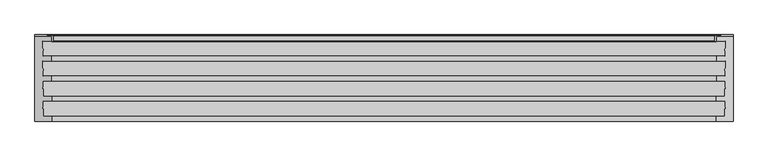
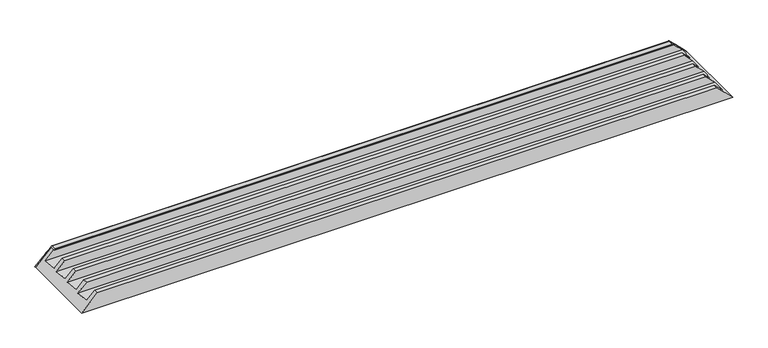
"""IFC4 building model written with IfcOpenShell, lengths in millimetres: proxy geometry, Weiku - Montante - Caixilho quíntuplo 02.2.01.003-003 refilado : Weiku - Montante - Caixilho quíntuplo 02.2.01.003-003 refilado."""

import ifcopenshell
import ifcopenshell.guid

model = None  # the IFC model being written
_history = None  # IfcOwnerHistory: only IFC2X3 demands one
_inside = {}  # id of a spatial element -> (the spatial element, [elements in it])
_under = {}  # id of a project, library or spatial element -> (it, [spatial elements below it])
_declared = {}  # id of a project -> (the project, [libraries it declares])
_typed = {}  # id of a type object -> (the type object, [elements of that type])
_made_of = {}  # id of a material, layer set ... -> (it, [elements and type objects made of it])


def new_model(schema):
    """Start an empty IFC model of exactly this schema.

    Asked for "IFC4X3", IfcOpenShell would pick the latest addendum, in which some entities
    have other attributes; the version numbers below select the first issue.
    IFC2X3 requires an IfcOwnerHistory on every rooted entity: one is made here for all.
    """
    global model, _history
    if schema == "IFC4X3":
        model = ifcopenshell.file(schema_version=(4, 3, 0, 0))
    else:
        model = ifcopenshell.file(schema=schema)
    _inside.clear()
    _under.clear()
    _declared.clear()
    _typed.clear()
    _made_of.clear()
    _history = None
    if model.schema == "IFC2X3":
        org = make("IfcOrganization", Name="unknown")
        user = make(
            "IfcPersonAndOrganization",
            ThePerson=make("IfcPerson", FamilyName="unknown"),
            TheOrganization=org,
        )
        app = make(
            "IfcApplication",
            ApplicationDeveloper=org,
            Version="unknown",
            ApplicationFullName="unknown",
            ApplicationIdentifier="unknown",
        )
        _history = make(
            "IfcOwnerHistory",
            OwningUser=user,
            OwningApplication=app,
            ChangeAction="ADDED",
            CreationDate=0,
        )
    return model


def make(cls, **values):
    """One entity of the class cls with the attributes given. An attribute that is None is left unset."""
    return model.create_entity(
        cls, **{name: value for name, value in values.items() if value is not None}
    )


def rooted(cls, **values):
    """An entity with a GlobalId (a new one), such as an element, a storey or a relation."""
    return make(cls, GlobalId=ifcopenshell.guid.new(), OwnerHistory=_history, **values)


def si_unit(unit_type, name, prefix=None):
    """IfcSIUnit, for example si_unit("LENGTHUNIT", "METRE", prefix="MILLI")."""
    return make("IfcSIUnit", UnitType=unit_type, Prefix=prefix, Name=name)


def assignment(units):
    """IfcUnitAssignment: the units of a project."""
    return None if units is None else make("IfcUnitAssignment", Units=units)


def point(xyz):
    """IfcCartesianPoint."""
    return None if xyz is None else make("IfcCartesianPoint", Coordinates=xyz)


def direction(xyz):
    """IfcDirection."""
    return None if xyz is None else make("IfcDirection", DirectionRatios=xyz)


def frame(location, z_axis=None, x_axis=None):
    """IfcAxis2Placement3D, a coordinate frame: its origin and axes. An axis left out is left unset."""
    return make(
        "IfcAxis2Placement3D",
        Location=point(location),
        Axis=direction(z_axis),
        RefDirection=direction(x_axis),
    )


def origin():
    """The frame at (0, 0, 0) with its axes left unset."""
    return frame((0.0, 0.0, 0.0))


def place(relative_to, where):
    """IfcLocalPlacement: puts the frame where relative to a parent placement (None: the world)."""
    return make(
        "IfcLocalPlacement", PlacementRelTo=relative_to, RelativePlacement=where
    )


def context(
    kind, dimensions, precision=None, world=None, true_north=None, identifier=None
):
    """IfcGeometricRepresentationContext, for example the 3D "Model" context."""
    return make(
        "IfcGeometricRepresentationContext",
        ContextIdentifier=identifier,
        ContextType=kind,
        CoordinateSpaceDimension=dimensions,
        Precision=precision,
        WorldCoordinateSystem=world,
        TrueNorth=true_north,
    )


def project(units=None, contexts=None):
    """IfcProject with its units and contexts."""
    return rooted(
        "IfcProject",
        Name="project",
        RepresentationContexts=contexts,
        UnitsInContext=assignment(units),
    )


def spatial(cls, under=None, at=None, **own):
    """A site, building, storey or space (cls), placed at a placement, below another one or the project."""
    s = rooted(cls, ObjectPlacement=at, **own)
    if under is not None:
        _under.setdefault(under.id(), (under, []))[1].append(s)
    return s


def polyline(points):
    """IfcPolyline through the points."""
    return make("IfcPolyline", Points=[point(p) for p in points])


def ellipse_curve(where, semi_axis1, semi_axis2):
    """IfcEllipse in the frame where."""
    return make(
        "IfcEllipse", Position=where, SemiAxis1=semi_axis1, SemiAxis2=semi_axis2
    )


def faces_of(points, faces, orient=None, outer=None):
    """IfcFace entities. A face is a list of loops; a loop is a list of indices into points, from 0.

    orient and outer hold one flag for each loop. By default every Orientation is true, the
    first loop of a face is its IfcFaceOuterBound and the others are IfcFaceBound.
    """
    made = []
    for i, loops in enumerate(faces):
        bounds = []
        for j, loop in enumerate(loops):
            is_outer = j == 0 if outer is None else outer[i][j]
            bounds.append(
                make(
                    "IfcFaceOuterBound" if is_outer else "IfcFaceBound",
                    Bound=make("IfcPolyLoop", Polygon=[points[k] for k in loop]),
                    Orientation=True if orient is None else orient[i][j],
                )
            )
        made.append(make("IfcFace", Bounds=bounds))
    return made


def faceted_brep(points, faces, orient=None, outer=None, voids=None):
    """IfcFacetedBrep: a solid bounded by flat faces; with voids (closed shells), ...WithVoids."""
    shared = [point(p) for p in points]
    hull = make("IfcClosedShell", CfsFaces=faces_of(shared, faces, orient, outer))
    if voids is None:
        return make("IfcFacetedBrep", Outer=hull)
    return make(
        "IfcFacetedBrepWithVoids",
        Outer=hull,
        Voids=[
            make(cls, CfsFaces=faces_of(shared, fs, o, b)) for cls, fs, o, b in voids
        ],
    )


def shape(context_of_items, identifier, shape_type, items):
    """IfcShapeRepresentation: the items that make up one representation, for example the "Body"."""
    return make(
        "IfcShapeRepresentation",
        ContextOfItems=context_of_items,
        RepresentationIdentifier=identifier,
        RepresentationType=shape_type,
        Items=items,
    )


def source(mapping_origin, context_of_items, identifier, shape_type, items):
    """IfcRepresentationMap: a shape defined once, which mapped items show again and again."""
    return make(
        "IfcRepresentationMap",
        MappingOrigin=mapping_origin,
        MappedRepresentation=shape(context_of_items, identifier, shape_type, items),
    )


def transform(
    local_origin,
    x_axis=None,
    y_axis=None,
    z_axis=None,
    scale=None,
    scale2=None,
    scale3=None,
    uniform=True,
):
    """IfcCartesianTransformationOperator3D, or its non-uniform kind. x_axis, y_axis, z_axis: its Axis1, 2, 3."""
    if uniform:
        return make(
            "IfcCartesianTransformationOperator3D",
            Axis1=direction(x_axis),
            Axis2=direction(y_axis),
            LocalOrigin=point(local_origin),
            Scale=scale,
            Axis3=direction(z_axis),
        )
    return make(
        "IfcCartesianTransformationOperator3DnonUniform",
        Axis1=direction(x_axis),
        Axis2=direction(y_axis),
        LocalOrigin=point(local_origin),
        Scale=scale,
        Axis3=direction(z_axis),
        Scale2=scale2,
        Scale3=scale3,
    )


def mapped(mapping_source, mapping_target):
    """IfcMappedItem: shows the shape of a source again, moved by a transform."""
    return make(
        "IfcMappedItem", MappingSource=mapping_source, MappingTarget=mapping_target
    )


def made_of(thing, what):
    """Note that an element or type object is made of a material, layer set ...; save() writes the relation."""
    if what is not None:
        _made_of.setdefault(what.id(), (what, []))[1].append(thing)
    return thing


def element(
    cls,
    number,
    at=None,
    inside=None,
    cuts=None,
    type_object=None,
    material=None,
    context=None,
    identifier="Body",
    shape_type=None,
    held_by="IfcProductDefinitionShape",
    body=None,
    shapes=None,
    **own,
):
    """One element of the class cls, such as IfcWall. Its Tag is "e" and its number.

    at: its placement. inside: the storey or other place that contains it. cuts: it is an
    opening in that element (IfcRelVoidsElement). A single representation is given by context,
    identifier, shape_type and body (its items); several are given by shapes. held_by: the class
    of the entity that holds the representations. save() writes the other relations.
    """
    e = rooted(cls, Tag="e%d" % number, ObjectPlacement=at, **own)
    if body is not None:
        shapes = [shape(context, identifier, shape_type, body)]
    if shapes is not None:
        e.Representation = make(held_by, Representations=shapes)
    if inside is not None:
        _inside.setdefault(inside.id(), (inside, []))[1].append(e)
    if cuts is not None:
        rooted(
            "IfcRelVoidsElement", RelatingBuildingElement=cuts, RelatedOpeningElement=e
        )
    if type_object is not None:
        _typed.setdefault(type_object.id(), (type_object, []))[1].append(e)
    return made_of(e, material)


def aggregate(whole, parts):
    """IfcRelAggregates: a whole, such as a stair, and the parts it consists of."""
    return rooted("IfcRelAggregates", RelatingObject=whole, RelatedObjects=parts)


def save(model, path):
    """Write the relations noted so far, then the file.

    IfcRelAggregates (storeys below a building ...), IfcRelContainedInSpatialStructure (elements
    in a storey), IfcRelDefinesByType, IfcRelAssociatesMaterial and IfcRelDeclares: one each for
    every whole, place, type object, material and project.
    """
    for whole, parts in _under.values():
        aggregate(whole, parts)
    for where, things in _inside.values():
        rooted(
            "IfcRelContainedInSpatialStructure",
            RelatedElements=things,
            RelatingStructure=where,
        )
    for kind, things in _typed.values():
        rooted("IfcRelDefinesByType", RelatedObjects=things, RelatingType=kind)
    for what, things in _made_of.values():
        rooted("IfcRelAssociatesMaterial", RelatedObjects=things, RelatingMaterial=what)
    for by, libraries in _declared.values():
        rooted("IfcRelDeclares", RelatingContext=by, RelatedDefinitions=libraries)
    model.write(path)


def plane_surface(at):
    """IfcPlane: the flat surface through the origin of the frame at, square to its z axis."""
    return make("IfcPlane", Position=at)


def cylinder_surface(at, radius):
    """IfcCylindricalSurface: all points at the distance radius from the z axis of the frame at."""
    return make("IfcCylindricalSurface", Position=at, Radius=radius)


def revolved_surface(curve, axis_point, axis_direction):
    """IfcSurfaceOfRevolution: the curve turned about the line through axis_point along axis_direction."""
    return make(
        "IfcSurfaceOfRevolution",
        SweptCurve=make("IfcArbitraryOpenProfileDef", ProfileType="CURVE", Curve=curve),
        AxisPosition=make("IfcAxis1Placement", Location=point(axis_point), Axis=direction(axis_direction)),
    )


def advanced_brep(points, edges, surfaces, faces):
    """IfcAdvancedBrep: a solid bounded by faces that lie on surfaces and meet in shared edges.

    An edge is (start, end): straight between two places in points (the first is 0);
    or (start, end, curve); or (start, end, curve, False) where it runs against its curve.
    A face is (place in surfaces, loops), or (place, loops, False) where it looks against
    its surface's normal. A loop lists edges by number (the first is 1), with a minus sign
    where the edge is run from its end to its start. The first loop is the outer one.
    """
    corners = [point(p) for p in points]
    vertices = [make("IfcVertexPoint", VertexGeometry=c) for c in corners]
    made = []
    for start, end, *more in edges:
        made.append(
            make(
                "IfcEdgeCurve",
                EdgeStart=vertices[start],
                EdgeEnd=vertices[end],
                EdgeGeometry=more[0] if more else make("IfcPolyline", Points=[corners[start], corners[end]]),
                SameSense=more[1] if len(more) > 1 else True,
            )
        )
    hull = []
    for where, loops, *sense in faces:
        bounds = []
        for j, loop in enumerate(loops):
            ring = [make("IfcOrientedEdge", EdgeElement=made[abs(k) - 1], Orientation=k > 0) for k in loop]
            bounds.append(
                make(
                    "IfcFaceOuterBound" if j == 0 else "IfcFaceBound",
                    Bound=make("IfcEdgeLoop", EdgeList=ring),
                    Orientation=True,
                )
            )
        hull.append(make("IfcAdvancedFace", Bounds=bounds, FaceSurface=surfaces[where], SameSense=sense[0] if sense else True))
    return make("IfcAdvancedBrep", Outer=make("IfcClosedShell", CfsFaces=hull))


def generic_models_2ec71c1b(model_context):
    return source(origin(), model_context, "Body", "SolidModel", [
        advanced_brep(
        [(-1020.5, 246.0, 55.0), (-1023.5, 246.0, 52.0), (1023.5, 246.0, 52.0), (1020.5, 246.0, 55.0), (-1019.5, 247.0, 56.0), (1019.5, 247.0, 56.0), (-1019.5, 264.0, 56.0), (1019.5, 264.0, 56.0), (-1020.5, 265.0, 55.0), (1020.5, 265.0, 55.0), (-1034.5, 265.0, 41.0), (1034.5, 265.0, 41.0), (-1037.5, 266.0, 38.0), (1037.5, 266.0, 38.0), (-1040.5, 267.0, 35.0), (1040.5, 267.0, 35.0), (1075.5, 267.0, 0.0), (-1075.5, 267.0, 0.0), (1075.5, 263.0, 0.0), (-1075.5, 263.0, 0.0), (1023.5, 263.0, 52.0), (-1023.5, 263.0, 52.0)],
        [
            (0, 1),
            (1, 2),
            (2, 3),
            (3, 0),
            (4, 0, ellipse_curve(frame((-1020.5, 247.0, 55.0), z_axis=(0.7071067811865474, 0.0, -0.7071067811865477), x_axis=(-0.7071067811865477, 0.0, -0.7071067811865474)), 1.4142136, 1.0)),
            (3, 5, ellipse_curve(frame((1020.5, 247.0, 55.0), z_axis=(-0.7071067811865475, 0.0, -0.7071067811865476), x_axis=(-0.7071067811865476, 0.0, 0.7071067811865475)), 1.4142136, 1.0)),
            (5, 4),
            (6, 4),
            (5, 7),
            (7, 6),
            (8, 6, ellipse_curve(frame((-1020.5, 264.0, 55.0), z_axis=(0.7071067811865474, 0.0, -0.7071067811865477), x_axis=(-0.7071067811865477, 0.0, -0.7071067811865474)), 1.4142136, 1.0)),
            (7, 9, ellipse_curve(frame((1020.5, 264.0, 55.0), z_axis=(-0.7071067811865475, 0.0, -0.7071067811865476), x_axis=(-0.7071067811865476, 0.0, 0.7071067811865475)), 1.4142136, 1.0)),
            (9, 8),
            (10, 8),
            (9, 11),
            (11, 10),
            (12, 10, ellipse_curve(frame((-1034.5, 270.0, 41.0), z_axis=(-0.7071067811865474, 0.0, 0.7071067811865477), x_axis=(0.7071067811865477, 0.0, 0.7071067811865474)), 7.0710678, 5.0)),
            (11, 13, ellipse_curve(frame((1034.5, 270.0, 41.0), z_axis=(0.7071067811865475, 0.0, 0.7071067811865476), x_axis=(0.7071067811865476, 0.0, -0.7071067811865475)), 7.0710678, 5.0)),
            (13, 12),
            (14, 12, ellipse_curve(frame((-1040.5, 262.0, 35.0), z_axis=(0.7071067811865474, 0.0, -0.7071067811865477), x_axis=(-0.7071067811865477, 0.0, -0.7071067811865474)), 7.0710678, 5.0)),
            (13, 15, ellipse_curve(frame((1040.5, 262.0, 35.0), z_axis=(-0.7071067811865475, 0.0, -0.7071067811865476), x_axis=(-0.7071067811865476, 0.0, 0.7071067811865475)), 7.0710678, 5.0)),
            (15, 14),
            (16, 17),
            (17, 14),
            (15, 16),
            (16, 18),
            (18, 19),
            (19, 17),
            (18, 20),
            (20, 21),
            (21, 19),
            (1, 21),
            (20, 2),
        ],
        [
            plane_surface(frame((-1075.5, 246.0, 52.0), z_axis=(0.0, -1.0, 0.0), x_axis=(1.0, 0.0, 0.0))),
            cylinder_surface(frame((-1075.5, 247.0, 55.0), z_axis=(-1.0, 0.0, 0.0), x_axis=(0.0, 1.0, 0.0)), 1.0),
            plane_surface(frame((-1075.5, 247.0, 56.0), z_axis=(0.0, 0.0, 1.0), x_axis=(1.0, 0.0, 0.0))),
            cylinder_surface(frame((-1075.5, 264.0, 55.0), z_axis=(-1.0, 0.0, 0.0), x_axis=(0.0, 1.0, 0.0)), 1.0),
            plane_surface(frame((-1075.5, 265.0, 55.0), z_axis=(0.0, 1.0, 0.0), x_axis=(1.0, 0.0, 0.0))),
            revolved_surface(polyline([(1039.49999999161, 275.0, 41.0), (-1039.49999999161, 275.0, 41.0)]), (-1075.5, 270.0, 41.0), (1.0, 0.0, 0.0)),
            cylinder_surface(frame((-1075.5, 262.0, 35.0), z_axis=(-1.0, 0.0, 0.0), x_axis=(0.0, 1.0, 0.0)), 5.0),
            plane_surface(frame((-1075.5, 267.0, 35.0), z_axis=(0.0, 1.0, 0.0), x_axis=(1.0, 0.0, 0.0))),
            plane_surface(frame((-1075.5, 267.0, 0.0), z_axis=(0.0, 0.0, -1.0), x_axis=(1.0, 0.0, 0.0))),
            plane_surface(frame((-1075.5, 263.0, 0.0), z_axis=(0.0, -1.0, 0.0), x_axis=(1.0, 0.0, 0.0))),
            plane_surface(frame((-1075.5, 263.0, 52.0), z_axis=(0.0, 0.0, -1.0), x_axis=(1.0, 0.0, 0.0))),
            plane_surface(frame((-1075.5, 287.2837741, 0.0), z_axis=(-0.7071067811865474, 0.0, 0.7071067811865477), x_axis=(0.7071067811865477, 0.0, 0.7071067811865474))),
            plane_surface(frame((1075.5, -12.7162259, 0.0), z_axis=(0.7071067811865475, 0.0, 0.7071067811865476), x_axis=(-0.7071067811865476, 0.0, 0.7071067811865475))),
        ],
        [
            (0, [[1, 2, 3, 4]]),
            (1, [[5, -4, 6, 7]]),
            (2, [[8, -7, 9, 10]]),
            (3, [[11, -10, 12, 13]]),
            (4, [[14, -13, 15, 16]]),
            (5, [[17, -16, 18, 19]]),
            (6, [[20, -19, 21, 22]]),
            (7, [[23, 24, -22, 25]]),
            (8, [[-23, 26, 27, 28]]),
            (9, [[-27, 29, 30, 31]]),
            (10, [[32, -30, 33, -2]]),
            (11, [[-1, -5, -8, -11, -14, -17, -20, -24, -28, -31, -32]]),
            (12, [[-3, -33, -29, -26, -25, -21, -18, -15, -12, -9, -6]]),
        ],
    ),
        faceted_brep([(-1049.5, 139.0, 26.0), (-1023.5, 139.0, 52.0), (1023.5, 139.0, 52.0), (1049.5, 139.0, 26.0), (-1051.7229744, 186.0, 23.7770256), (1051.7229744, 186.0, 23.7770256), (-1023.5, 186.0, 52.0), (1023.5, 186.0, 52.0), (-1023.5, 201.0, 52.0), (1023.5, 201.0, 52.0), (-1075.5, 263.0, 0.0), (1075.5, 263.0, 0.0), (1075.5, 0.0, 0.0), (-1075.5, 0.0, 0.0), (-1023.5, 124.0, 52.0), (1023.5, 124.0, 52.0), (-1049.5, 201.0, 26.0), (1049.5, 201.0, 26.0), (-1051.7229744, 248.0, 23.7770256), (1051.7229744, 248.0, 23.7770256), (-1023.5, 248.0, 52.0), (1023.5, 248.0, 52.0), (-1023.5, 263.0, 52.0), (1023.5, 263.0, 52.0), (1023.5, 0.0, 52.0), (-1023.5, 0.0, 52.0), (-1051.7229744, 124.0, 23.7770256), (1051.7229744, 124.0, 23.7770256), (-1023.5, 15.0, 52.0), (-1049.5, 15.0, 26.0), (-1051.7229744, 62.0, 23.7770256), (-1023.5, 62.0, 52.0), (-1023.5, 77.0, 52.0), (-1049.5, 77.0, 26.0), (1049.5, 77.0, 26.0), (1023.5, 77.0, 52.0), (1023.5, 62.0, 52.0), (1051.7229744, 62.0, 23.7770256), (1049.5, 15.0, 26.0), (1023.5, 15.0, 52.0)], [[[0, 1, 2, 3]], [[4, 0, 3, 5]], [[6, 4, 5, 7]], [[8, 6, 7, 9]], [[10, 11, 12, 13]], [[1, 14, 15, 2]], [[16, 8, 9, 17]], [[18, 16, 17, 19]], [[20, 18, 19, 21]], [[22, 20, 21, 23]], [[11, 10, 22, 23]], [[13, 12, 24, 25]], [[14, 26, 27, 15]], [[1, 0, 4, 6, 8, 16, 18, 20, 22, 10, 13, 25, 28, 29, 30, 31, 32, 33, 26, 14]], [[3, 2, 15, 27, 34, 35, 36, 37, 38, 39, 24, 12, 11, 23, 21, 19, 17, 9, 7, 5]], [[28, 25, 24, 39]], [[29, 28, 39, 38]], [[30, 29, 38, 37]], [[31, 30, 37, 36]], [[32, 31, 36, 35]], [[33, 32, 35, 34]], [[26, 33, 34, 27]]]),
    ])


if __name__ == "__main__":
    model = new_model("IFC4")
    model_context = context("Model", 3, world=origin())
    ifc_project = project(units=[si_unit("LENGTHUNIT", "METRE", prefix="MILLI")], contexts=[model_context])
    site = spatial("IfcSite", under=ifc_project)
    building = spatial("IfcBuilding", under=site)
    placement = place(None, origin())
    generic_models_shape = generic_models_2ec71c1b(model_context)
    element("IfcBuildingElementProxy", 1, Name="Weiku - Montante - Caixilho quíntuplo 02.2.01.003-003 refilado : Weiku - Montante - Caixilho quíntuplo 02.2.01.003-003 refilado", ObjectType="Weiku - Montante - Caixilho quíntuplo 02.2.01.003-003 refilado : Weiku - Montante - Caixilho quíntuplo 02.2.01.003-003 refilado", at=placement, inside=building, context=model_context, shape_type="MappedRepresentation", body=[
        mapped(generic_models_shape, transform((0.0, 0.0, 0.0), x_axis=(1.0, 0.0, 0.0), y_axis=(0.0, 1.0, 0.0), z_axis=(0.0, 0.0, 1.0))),
    ])
    save(model, "model.ifc")
